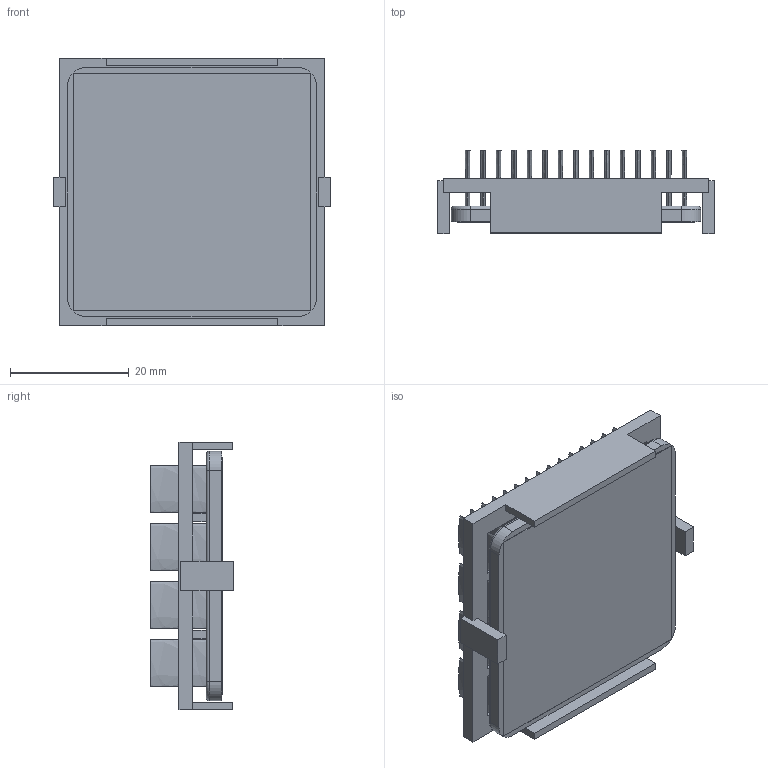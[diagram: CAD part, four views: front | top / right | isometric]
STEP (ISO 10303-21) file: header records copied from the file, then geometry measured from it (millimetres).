
FILE_DESCRIPTION (( 'STEP AP214' ), '1' );
FILE_NAME ('INM42.5001-12W-2.6BU.STEP', '2023-02-28T00:08:25', ( '' ), ( '' ), 'SwSTEP 2.0', 'SolidWorks 2020', '' );
FILE_SCHEMA (( 'AUTOMOTIVE_DESIGN' ));
Length unit declared in the file: inch
Products named in the file (1): INM42.5001-12W-2.6BU
Bounding box: 46.7 x 14 x 45.1 mm (x, y, z)
Volume: 9822.3 mm3; surface area: 19436.6 mm2
Topology: 3 solids, 3 shells, 258 faces, 568 edges, 376 vertices
Faces by surface type: plane 126, bspline 120, cylinder 8, torus 4
Entity records: 10728 total; most frequent: CARTESIAN_POINT 2763, ORIENTED_EDGE 1136, DIRECTION 626, EDGE_CURVE 568, VERTEX_POINT 376, EDGE_LOOP 320, VECTOR 308, LINE 308
